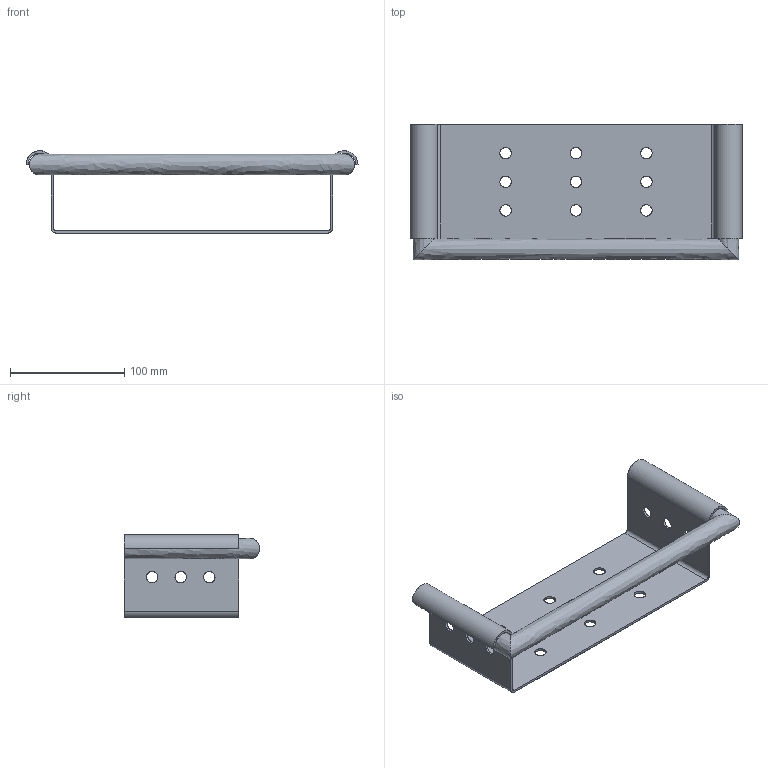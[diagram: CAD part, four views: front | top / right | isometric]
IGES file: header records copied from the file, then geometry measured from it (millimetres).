
Global section: file name: /Users/f/Desktop/B&A/b&a/B&Acompleti/AM137.igs; native system: Rhinoceros ( Feb 10 2011 ); preprocessor: Trout Lake IGES 012 Feb 10 2011; date: 110221.093152; units: millimetre
Bounding box: 290 x 118 x 72 mm (x, y, z)
Surface area: 114135.3 mm2 (no closed solid volume)
Topology: 0 solids, 0 shells, 38 faces, 835 edges, 805 vertices
Faces by surface type: bspline 38
